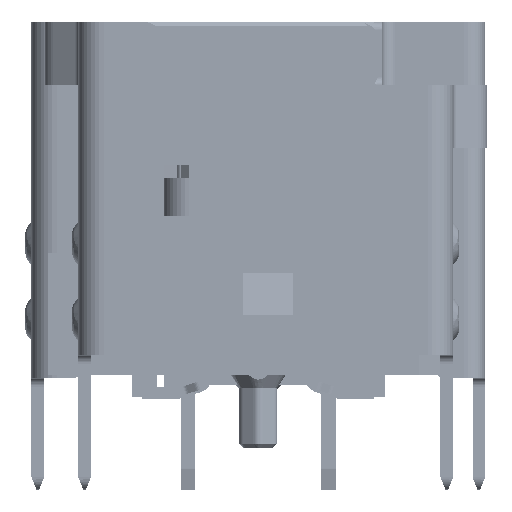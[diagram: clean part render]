
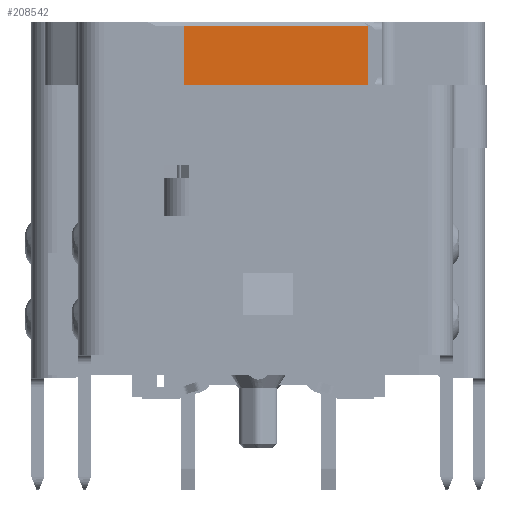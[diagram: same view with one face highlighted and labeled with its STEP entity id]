
A CAD part, left-side view. The second image highlights one B-rep face of the part: STEP entity #208542.
In plain terms, the highlighted planar face has unit normal (-1, 0, 0).
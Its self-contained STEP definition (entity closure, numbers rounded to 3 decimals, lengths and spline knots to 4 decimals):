
#440=DIRECTION('',(0.,0.707,0.707));
#441=VECTOR('',#440,0.1414);
#442=CARTESIAN_POINT('',(13.17,-2.59,-1.45));
#443=LINE('',#442,#441);
#444=DIRECTION('',(0.,0.,1.));
#445=VECTOR('',#444,1.45);
#446=CARTESIAN_POINT('',(13.17,2.24,-1.35));
#447=LINE('',#446,#445);
#448=DIRECTION('',(0.,-1.,0.));
#449=VECTOR('',#448,4.83);
#450=CARTESIAN_POINT('',(13.17,2.24,0.1));
#451=LINE('',#450,#449);
#452=DIRECTION('',(0.,0.,-1.));
#453=VECTOR('',#452,1.55);
#454=CARTESIAN_POINT('',(13.17,-2.59,0.1));
#455=LINE('',#454,#453);
#488=DIRECTION('',(0.,-1.,0.));
#489=VECTOR('',#488,4.63);
#490=CARTESIAN_POINT('',(13.17,2.14,-1.35));
#491=LINE('',#490,#489);
#880=DIRECTION('',(0.,-1.,0.));
#881=VECTOR('',#880,0.1);
#882=CARTESIAN_POINT('',(13.17,2.24,-1.35));
#883=LINE('',#882,#881);
#166319=CARTESIAN_POINT('',(13.17,-2.59,0.1));
#166320=VERTEX_POINT('',#166319);
#166321=CARTESIAN_POINT('',(13.17,-2.59,-1.45));
#166322=VERTEX_POINT('',#166321);
#167627=CARTESIAN_POINT('',(13.17,2.24,-1.35));
#167628=VERTEX_POINT('',#167627);
#167629=CARTESIAN_POINT('',(13.17,2.24,0.1));
#167630=VERTEX_POINT('',#167629);
#168702=CARTESIAN_POINT('',(13.17,-2.49,-1.35));
#168703=VERTEX_POINT('',#168702);
#168704=CARTESIAN_POINT('',(13.17,2.14,-1.35));
#168705=VERTEX_POINT('',#168704);
#208525=CARTESIAN_POINT('',(13.17,-0.175,-0.675));
#208526=DIRECTION('',(1.,0.,0.));
#208527=DIRECTION('',(0.,0.,-1.));
#208528=AXIS2_PLACEMENT_3D('',#208525,#208526,#208527);
#208529=PLANE('',#208528);
#208531=ORIENTED_EDGE('',*,*,#208530,.T.);
#208533=ORIENTED_EDGE('',*,*,#208532,.F.);
#208535=ORIENTED_EDGE('',*,*,#208534,.F.);
#208537=ORIENTED_EDGE('',*,*,#208536,.T.);
#208538=ORIENTED_EDGE('',*,*,#208511,.T.);
#208539=ORIENTED_EDGE('',*,*,#207940,.T.);
#208540=EDGE_LOOP('',(#208531,#208533,#208535,#208537,#208538,#208539));
#208541=FACE_OUTER_BOUND('',#208540,.F.);
#207940=EDGE_CURVE('',#166320,#166322,#455,.T.);
#208511=EDGE_CURVE('',#167630,#166320,#451,.T.);
#208530=EDGE_CURVE('',#166322,#168703,#443,.T.);
#208532=EDGE_CURVE('',#168705,#168703,#491,.T.);
#208534=EDGE_CURVE('',#167628,#168705,#883,.T.);
#208536=EDGE_CURVE('',#167628,#167630,#447,.T.);
#208542=ADVANCED_FACE('',(#208541),#208529,.F.);
